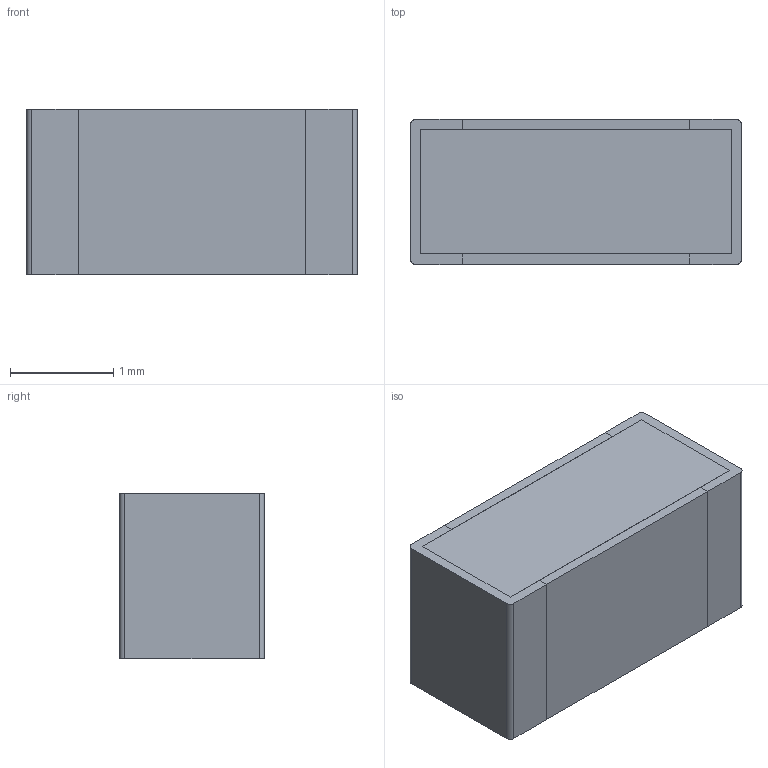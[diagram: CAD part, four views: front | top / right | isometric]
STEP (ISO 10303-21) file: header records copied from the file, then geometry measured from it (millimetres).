
FILE_DESCRIPTION (( 'STEP AP214' ), '1' );
FILE_NAME ( 'RESC3216X140.STEP', '2014-04-11T12:31:18', ( '' ), ( '' ), 'FPX Expert 2013', 'PCB Libraries', '' );
FILE_SCHEMA (( 'AUTOMOTIVE_DESIGN' ));
Length unit declared in the file: millimetre
Products named in the file (1): RESC3216X140
Bounding box: 3.2 x 1.4 x 1.6 mm (x, y, z)
Volume: 7.2 mm3; surface area: 51.7 mm2
Topology: 5 solids, 5 shells, 42 faces, 96 edges, 64 vertices
Faces by surface type: plane 38, cylinder 4
Entity records: 1344 total; most frequent: CARTESIAN_POINT 203, ORIENTED_EDGE 192, DIRECTION 190, EDGE_CURVE 96, VECTOR 88, LINE 88, VERTEX_POINT 64, AXIS2_PLACEMENT_3D 51
